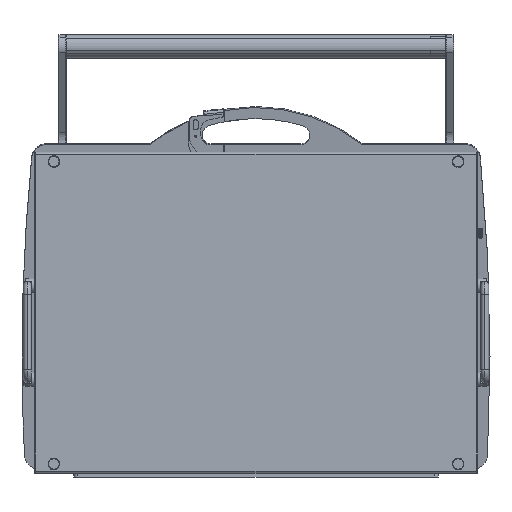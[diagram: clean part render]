
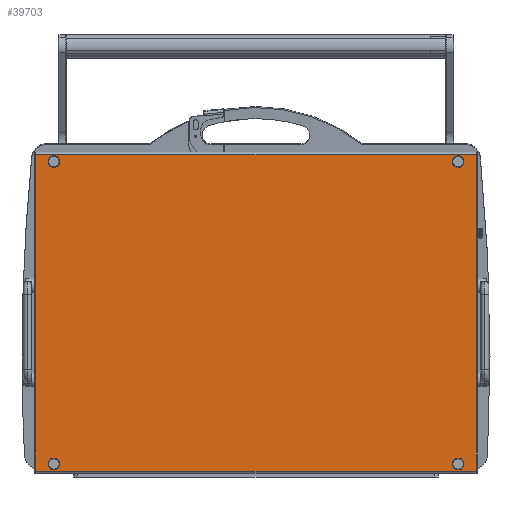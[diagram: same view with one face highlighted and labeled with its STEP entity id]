
A CAD part, front view. The second image highlights one B-rep face of the part: STEP entity #39703.
In plain terms, the highlighted planar face has unit normal (0, -1, 0).
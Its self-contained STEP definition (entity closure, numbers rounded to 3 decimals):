
#1298 = EDGE_CURVE ( 'NONE', #37680, #61249, #10122, .T. ) ;
#2172 = VERTEX_POINT ( 'NONE', #80749 ) ;
#2588 = DIRECTION ( 'NONE',  ( 0., 0., -1. ) ) ;
#2711 = DIRECTION ( 'NONE',  ( 0., -1., 0. ) ) ;
#2754 = ORIENTED_EDGE ( 'NONE', *, *, #90299, .T. ) ;
#2792 = CARTESIAN_POINT ( 'NONE',  ( 258., 0., -193. ) ) ;
#5375 = CARTESIAN_POINT ( 'NONE',  ( -258., 0., 187.9 ) ) ;
#7232 = CIRCLE ( 'NONE', #55697, 5.1 ) ;
#8465 = DIRECTION ( 'NONE',  ( 0., -1., 0. ) ) ;
#8734 = DIRECTION ( 'NONE',  ( 0., 1., 0. ) ) ;
#8833 = CARTESIAN_POINT ( 'NONE',  ( -258., 0., -193. ) ) ;
#9483 = EDGE_CURVE ( 'NONE', #103245, #57400, #7232, .T. ) ;
#10122 = CIRCLE ( 'NONE', #29987, 5.1 ) ;
#10128 = VECTOR ( 'NONE', #60342, 1000. ) ;
#11597 = CARTESIAN_POINT ( 'NONE',  ( 258., 0., 193. ) ) ;
#13606 = ORIENTED_EDGE ( 'NONE', *, *, #9483, .F. ) ;
#14338 = AXIS2_PLACEMENT_3D ( 'NONE', #18645, #76803, #27072 ) ;
#14801 = AXIS2_PLACEMENT_3D ( 'NONE', #8833, #67011, #17214 ) ;
#15218 = PLANE ( 'NONE',  #24250 ) ;
#17214 = DIRECTION ( 'NONE',  ( 0., 0., -1. ) ) ;
#18082 = EDGE_CURVE ( 'NONE', #57400, #103245, #24089, .T. ) ;
#18645 = CARTESIAN_POINT ( 'NONE',  ( 258., 0., 193. ) ) ;
#19543 = CIRCLE ( 'NONE', #14801, 5.1 ) ;
#19939 = EDGE_LOOP ( 'NONE', ( #65672, #2754, #100377, #37872 ) ) ;
#19949 = DIRECTION ( 'NONE',  ( 0., 0., -1. ) ) ;
#22852 = CIRCLE ( 'NONE', #100657, 5.1 ) ;
#24089 = CIRCLE ( 'NONE', #33777, 5.1 ) ;
#24250 = AXIS2_PLACEMENT_3D ( 'NONE', #65844, #8734, #48989 ) ;
#25709 = ORIENTED_EDGE ( 'NONE', *, *, #63211, .F. ) ;
#25965 = ORIENTED_EDGE ( 'NONE', *, *, #86842, .F. ) ;
#27072 = DIRECTION ( 'NONE',  ( 0., 0., -1. ) ) ;
#27149 = LINE ( 'NONE', #65415, #90734 ) ;
#29714 = CIRCLE ( 'NONE', #46317, 5.1 ) ;
#29987 = AXIS2_PLACEMENT_3D ( 'NONE', #77652, #8465, #43577 ) ;
#32536 = DIRECTION ( 'NONE',  ( 0., 0., -1. ) ) ;
#33777 = AXIS2_PLACEMENT_3D ( 'NONE', #36814, #36799, #36670 ) ;
#34335 = DIRECTION ( 'NONE',  ( 0., -1., 0. ) ) ;
#35140 = ORIENTED_EDGE ( 'NONE', *, *, #1298, .F. ) ;
#36670 = DIRECTION ( 'NONE',  ( 0., 0., -1. ) ) ;
#36799 = DIRECTION ( 'NONE',  ( 0., -1., 0. ) ) ;
#36814 = CARTESIAN_POINT ( 'NONE',  ( 258., 0., -193. ) ) ;
#37680 = VERTEX_POINT ( 'NONE', #91909 ) ;
#37872 = ORIENTED_EDGE ( 'NONE', *, *, #105185, .T. ) ;
#39703 = ADVANCED_FACE ( 'NONE', ( #49691, #40441, #75859, #81049, #89180 ), #15218, .F. ) ;
#40052 = AXIS2_PLACEMENT_3D ( 'NONE', #11597, #69725, #19949 ) ;
#40441 = FACE_BOUND ( 'NONE', #52282, .T. ) ;
#43577 = DIRECTION ( 'NONE',  ( 0., 0., -1. ) ) ;
#44943 = EDGE_CURVE ( 'NONE', #58147, #89633, #29714, .T. ) ;
#45649 = ORIENTED_EDGE ( 'NONE', *, *, #76364, .F. ) ;
#46317 = AXIS2_PLACEMENT_3D ( 'NONE', #47930, #47915, #47777 ) ;
#47777 = DIRECTION ( 'NONE',  ( 0., 0., -1. ) ) ;
#47915 = DIRECTION ( 'NONE',  ( 0., -1., 0. ) ) ;
#47930 = CARTESIAN_POINT ( 'NONE',  ( -258., 0., 193. ) ) ;
#48358 = EDGE_LOOP ( 'NONE', ( #25965, #68180 ) ) ;
#48989 = DIRECTION ( 'NONE',  ( 0., 0., 1. ) ) ;
#49691 = FACE_BOUND ( 'NONE', #59563, .T. ) ;
#52282 = EDGE_LOOP ( 'NONE', ( #35140, #25709 ) ) ;
#53899 = CARTESIAN_POINT ( 'NONE',  ( 258., 0., -187.9 ) ) ;
#54261 = VECTOR ( 'NONE', #90748, 1000. ) ;
#54315 = CARTESIAN_POINT ( 'NONE',  ( 258., 0., 198.1 ) ) ;
#55396 = VERTEX_POINT ( 'NONE', #103034 ) ;
#55697 = AXIS2_PLACEMENT_3D ( 'NONE', #2792, #2711, #2588 ) ;
#57400 = VERTEX_POINT ( 'NONE', #105273 ) ;
#58147 = VERTEX_POINT ( 'NONE', #73607 ) ;
#59210 = ORIENTED_EDGE ( 'NONE', *, *, #92951, .F. ) ;
#59563 = EDGE_LOOP ( 'NONE', ( #103399, #13606 ) ) ;
#60342 = DIRECTION ( 'NONE',  ( -1., 0., 0. ) ) ;
#61133 = LINE ( 'NONE', #73951, #80588 ) ;
#61249 = VERTEX_POINT ( 'NONE', #89955 ) ;
#62091 = EDGE_LOOP ( 'NONE', ( #59210, #45649 ) ) ;
#62721 = CIRCLE ( 'NONE', #40052, 5.1 ) ;
#63211 = EDGE_CURVE ( 'NONE', #61249, #37680, #19543, .T. ) ;
#65415 = CARTESIAN_POINT ( 'NONE',  ( 281., 0., 202. ) ) ;
#65672 = ORIENTED_EDGE ( 'NONE', *, *, #73554, .T. ) ;
#65844 = CARTESIAN_POINT ( 'NONE',  ( 283., 0., 202. ) ) ;
#66112 = CARTESIAN_POINT ( 'NONE',  ( 283., 0., -202. ) ) ;
#67011 = DIRECTION ( 'NONE',  ( 0., -1., 0. ) ) ;
#68180 = ORIENTED_EDGE ( 'NONE', *, *, #44943, .F. ) ;
#69725 = DIRECTION ( 'NONE',  ( 0., -1., 0. ) ) ;
#71928 = VERTEX_POINT ( 'NONE', #94855 ) ;
#72720 = VERTEX_POINT ( 'NONE', #97249 ) ;
#73554 = EDGE_CURVE ( 'NONE', #71928, #55396, #106325, .T. ) ;
#73607 = CARTESIAN_POINT ( 'NONE',  ( -258., 0., 198.1 ) ) ;
#73794 = DIRECTION ( 'NONE',  ( 0., 0., 1. ) ) ;
#73951 = CARTESIAN_POINT ( 'NONE',  ( -281., 0., 202. ) ) ;
#75859 = FACE_BOUND ( 'NONE', #48358, .T. ) ;
#76364 = EDGE_CURVE ( 'NONE', #87105, #2172, #107365, .T. ) ;
#76803 = DIRECTION ( 'NONE',  ( 0., -1., 0. ) ) ;
#77652 = CARTESIAN_POINT ( 'NONE',  ( -258., 0., -193. ) ) ;
#80588 = VECTOR ( 'NONE', #32536, 1000. ) ;
#80749 = CARTESIAN_POINT ( 'NONE',  ( 258., 0., 187.9 ) ) ;
#81049 = FACE_BOUND ( 'NONE', #62091, .T. ) ;
#84043 = CARTESIAN_POINT ( 'NONE',  ( -258., 0., 193. ) ) ;
#85901 = EDGE_CURVE ( 'NONE', #72720, #104881, #98301, .T. ) ;
#86842 = EDGE_CURVE ( 'NONE', #89633, #58147, #22852, .T. ) ;
#87105 = VERTEX_POINT ( 'NONE', #54315 ) ;
#89180 = FACE_OUTER_BOUND ( 'NONE', #19939, .T. ) ;
#89633 = VERTEX_POINT ( 'NONE', #5375 ) ;
#89955 = CARTESIAN_POINT ( 'NONE',  ( -258., 0., -187.9 ) ) ;
#90299 = EDGE_CURVE ( 'NONE', #55396, #104881, #61133, .T. ) ;
#90734 = VECTOR ( 'NONE', #73794, 1000. ) ;
#90748 = DIRECTION ( 'NONE',  ( -1., 0., 0. ) ) ;
#91909 = CARTESIAN_POINT ( 'NONE',  ( -258., 0., -198.1 ) ) ;
#92389 = DIRECTION ( 'NONE',  ( 0., 0., -1. ) ) ;
#92951 = EDGE_CURVE ( 'NONE', #2172, #87105, #62721, .T. ) ;
#92978 = CARTESIAN_POINT ( 'NONE',  ( -281., 0., -202. ) ) ;
#93298 = CARTESIAN_POINT ( 'NONE',  ( 283., 0., 202. ) ) ;
#94855 = CARTESIAN_POINT ( 'NONE',  ( 281., 0., 202. ) ) ;
#97249 = CARTESIAN_POINT ( 'NONE',  ( 281., 0., -202. ) ) ;
#98301 = LINE ( 'NONE', #66112, #54261 ) ;
#100377 = ORIENTED_EDGE ( 'NONE', *, *, #85901, .F. ) ;
#100657 = AXIS2_PLACEMENT_3D ( 'NONE', #84043, #34335, #92389 ) ;
#103034 = CARTESIAN_POINT ( 'NONE',  ( -281., 0., 202. ) ) ;
#103245 = VERTEX_POINT ( 'NONE', #53899 ) ;
#103399 = ORIENTED_EDGE ( 'NONE', *, *, #18082, .F. ) ;
#104881 = VERTEX_POINT ( 'NONE', #92978 ) ;
#105185 = EDGE_CURVE ( 'NONE', #72720, #71928, #27149, .T. ) ;
#105273 = CARTESIAN_POINT ( 'NONE',  ( 258., 0., -198.1 ) ) ;
#106325 = LINE ( 'NONE', #93298, #10128 ) ;
#107365 = CIRCLE ( 'NONE', #14338, 5.1 ) ;
